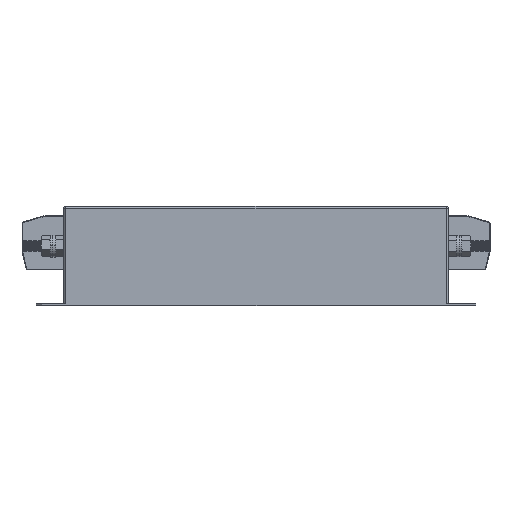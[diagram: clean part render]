
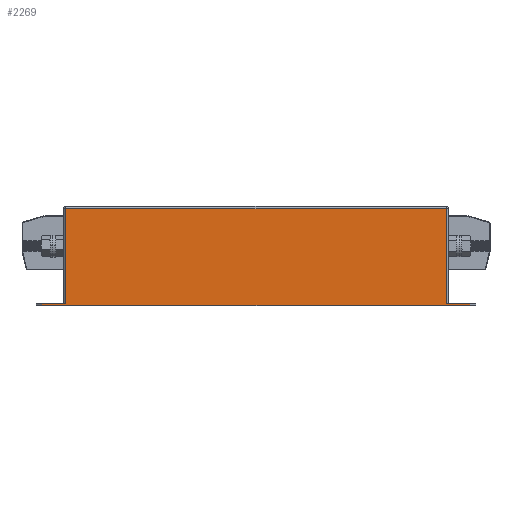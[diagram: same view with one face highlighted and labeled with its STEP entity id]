
A CAD part, top view. The second image highlights one B-rep face of the part: STEP entity #2269.
In plain terms, the highlighted planar face has unit normal (0, 0, 1).
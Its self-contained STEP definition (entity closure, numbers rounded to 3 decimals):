
#98 = CARTESIAN_POINT ( 'NONE',  ( 373., 1.5, 170. ) ) ;
#195 = DIRECTION ( 'NONE',  ( -1., 0., 0. ) ) ;
#479 = EDGE_CURVE ( 'NONE', #10417, #4102, #5210, .T. ) ;
#564 = CARTESIAN_POINT ( 'NONE',  ( 373., 88., 170. ) ) ;
#704 = DIRECTION ( 'NONE',  ( -1., 0., 0. ) ) ;
#1270 = LINE ( 'NONE', #5587, #7453 ) ;
#1401 = DIRECTION ( 'NONE',  ( 0., -1., 0. ) ) ;
#1952 = VECTOR ( 'NONE', #2905, 1000. ) ;
#2266 = ORIENTED_EDGE ( 'NONE', *, *, #6597, .F. ) ;
#2269 = ADVANCED_FACE ( 'NONE', ( #4685 ), #4468, .F. ) ;
#2349 = EDGE_CURVE ( 'NONE', #3502, #10389, #3848, .T. ) ;
#2383 = VERTEX_POINT ( 'NONE', #8585 ) ;
#2453 = ORIENTED_EDGE ( 'NONE', *, *, #2349, .T. ) ;
#2730 = CARTESIAN_POINT ( 'NONE',  ( 373., 1.5, 170. ) ) ;
#2833 = VECTOR ( 'NONE', #7332, 1000. ) ;
#2905 = DIRECTION ( 'NONE',  ( 1., 0., 0. ) ) ;
#3502 = VERTEX_POINT ( 'NONE', #6109 ) ;
#3762 = DIRECTION ( 'NONE',  ( 0., 0., -1. ) ) ;
#3816 = VERTEX_POINT ( 'NONE', #5679 ) ;
#3844 = ORIENTED_EDGE ( 'NONE', *, *, #9654, .T. ) ;
#3848 = LINE ( 'NONE', #10221, #10285 ) ;
#3928 = DIRECTION ( 'NONE',  ( 1., 0., 0. ) ) ;
#3949 = CARTESIAN_POINT ( 'NONE',  ( 5., 1.5, 170. ) ) ;
#3986 = VERTEX_POINT ( 'NONE', #8374 ) ;
#4071 = EDGE_LOOP ( 'NONE', ( #3844, #5256, #2266, #5874, #4894, #2453, #7109, #4126 ) ) ;
#4102 = VERTEX_POINT ( 'NONE', #564 ) ;
#4126 = ORIENTED_EDGE ( 'NONE', *, *, #7699, .T. ) ;
#4468 = PLANE ( 'NONE',  #10445 ) ;
#4529 = DIRECTION ( 'NONE',  ( 0., 1., 0. ) ) ;
#4574 = VECTOR ( 'NONE', #7376, 1000. ) ;
#4685 = FACE_OUTER_BOUND ( 'NONE', #4071, .T. ) ;
#4894 = ORIENTED_EDGE ( 'NONE', *, *, #9627, .T. ) ;
#4988 = VECTOR ( 'NONE', #195, 1000. ) ;
#5036 = CARTESIAN_POINT ( 'NONE',  ( 27., 1.5, 170. ) ) ;
#5045 = CARTESIAN_POINT ( 'NONE',  ( 25., 88., 170. ) ) ;
#5210 = LINE ( 'NONE', #98, #4574 ) ;
#5256 = ORIENTED_EDGE ( 'NONE', *, *, #5929, .T. ) ;
#5587 = CARTESIAN_POINT ( 'NONE',  ( 0., 1.5, 170. ) ) ;
#5679 = CARTESIAN_POINT ( 'NONE',  ( 395., 0., 170. ) ) ;
#5874 = ORIENTED_EDGE ( 'NONE', *, *, #479, .T. ) ;
#5929 = EDGE_CURVE ( 'NONE', #3816, #3986, #9342, .T. ) ;
#6109 = CARTESIAN_POINT ( 'NONE',  ( 27., 88., 170. ) ) ;
#6507 = LINE ( 'NONE', #6878, #1952 ) ;
#6597 = EDGE_CURVE ( 'NONE', #10417, #3986, #1270, .T. ) ;
#6878 = CARTESIAN_POINT ( 'NONE',  ( 0., 1.5, 170. ) ) ;
#7109 = ORIENTED_EDGE ( 'NONE', *, *, #9895, .F. ) ;
#7332 = DIRECTION ( 'NONE',  ( 1., 0., 0. ) ) ;
#7376 = DIRECTION ( 'NONE',  ( 0., 1., 0. ) ) ;
#7453 = VECTOR ( 'NONE', #3928, 1000. ) ;
#7559 = LINE ( 'NONE', #7583, #9941 ) ;
#7583 = CARTESIAN_POINT ( 'NONE',  ( 5., 1.5, 170. ) ) ;
#7699 = EDGE_CURVE ( 'NONE', #8394, #2383, #7559, .T. ) ;
#7751 = DIRECTION ( 'NONE',  ( 0., -1., 0. ) ) ;
#7893 = LINE ( 'NONE', #5045, #4988 ) ;
#8374 = CARTESIAN_POINT ( 'NONE',  ( 395., 1.5, 170. ) ) ;
#8394 = VERTEX_POINT ( 'NONE', #3949 ) ;
#8447 = CARTESIAN_POINT ( 'NONE',  ( 0., 1.5, 170. ) ) ;
#8506 = LINE ( 'NONE', #8947, #2833 ) ;
#8585 = CARTESIAN_POINT ( 'NONE',  ( 5., 0., 170. ) ) ;
#8839 = VECTOR ( 'NONE', #4529, 1000. ) ;
#8947 = CARTESIAN_POINT ( 'NONE',  ( 0., 0., 170. ) ) ;
#9342 = LINE ( 'NONE', #9348, #8839 ) ;
#9348 = CARTESIAN_POINT ( 'NONE',  ( 395., 1.5, 170. ) ) ;
#9627 = EDGE_CURVE ( 'NONE', #4102, #3502, #7893, .T. ) ;
#9654 = EDGE_CURVE ( 'NONE', #2383, #3816, #8506, .T. ) ;
#9895 = EDGE_CURVE ( 'NONE', #8394, #10389, #6507, .T. ) ;
#9941 = VECTOR ( 'NONE', #7751, 1000. ) ;
#10221 = CARTESIAN_POINT ( 'NONE',  ( 27., 1.5, 170. ) ) ;
#10285 = VECTOR ( 'NONE', #1401, 1000. ) ;
#10389 = VERTEX_POINT ( 'NONE', #5036 ) ;
#10417 = VERTEX_POINT ( 'NONE', #2730 ) ;
#10445 = AXIS2_PLACEMENT_3D ( 'NONE', #8447, #3762, #704 ) ;
